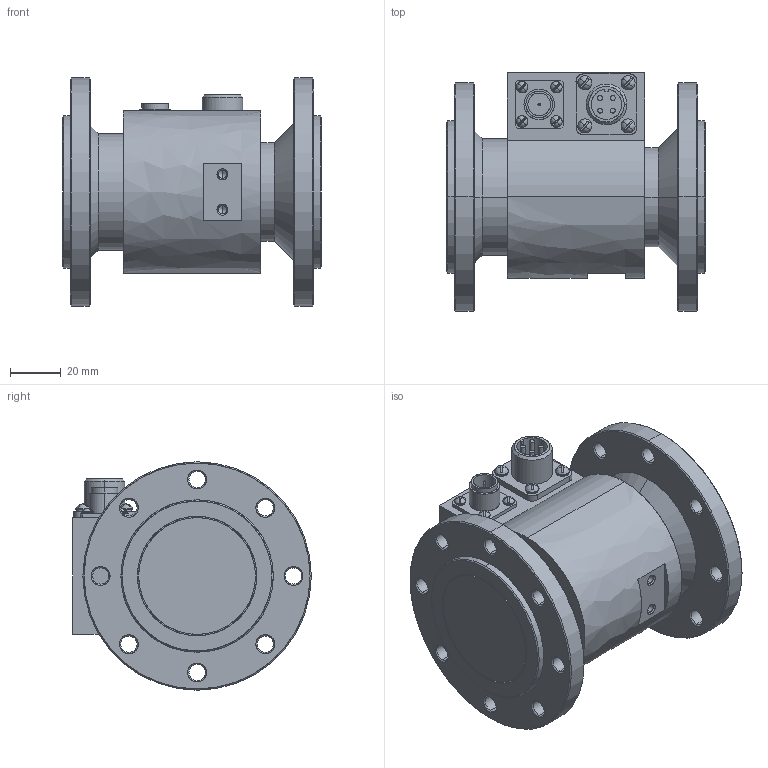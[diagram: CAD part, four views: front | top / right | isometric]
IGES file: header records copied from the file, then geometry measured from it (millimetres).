
Start section: SolidWorks IGES file using analytic representation for surfaces
Global section: file name: D:\ERMAK\WORK\M20C\M20C-200\3D\M20C-200.IGS; native system: SolidWorks 2019; preprocessor: SolidWorks 2019; author: Admin; date: 210414.145352; units: millimetre
Bounding box: 102 x 94 x 90 mm (x, y, z)
Surface area: 59862.6 mm2 (no closed solid volume)
Topology: 0 solids, 0 shells, 398 faces, 7982 edges, 7978 vertices
Faces by surface type: revolution 276, bspline 122
